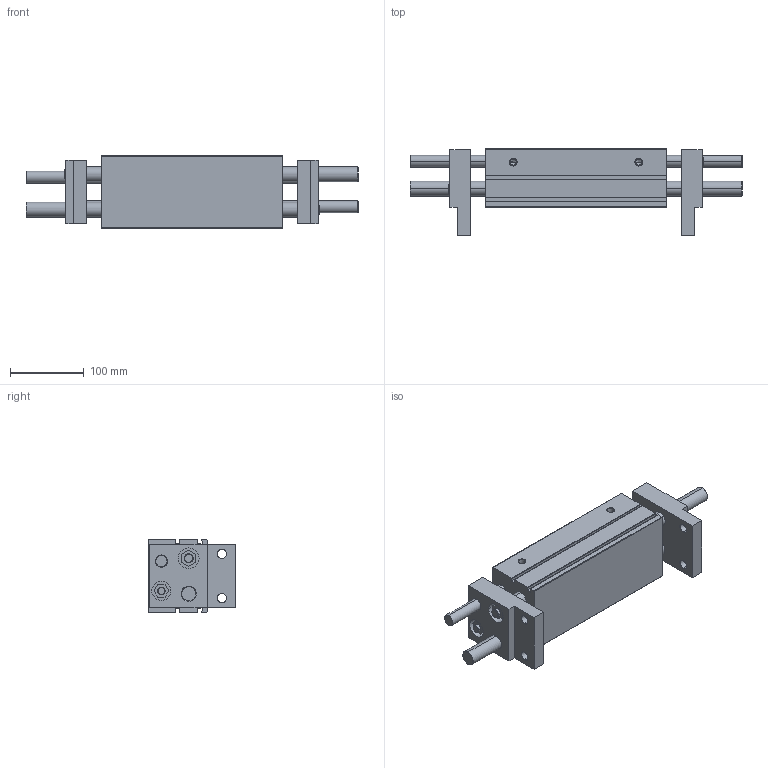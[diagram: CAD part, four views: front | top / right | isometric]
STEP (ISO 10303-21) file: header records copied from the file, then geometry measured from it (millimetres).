
FILE_DESCRIPTION (( 'STEP AP203' ), '1' );
FILE_NAME ('CHL2-40D2.STEP', '2017-06-06T19:59:36', ( '' ), ( '' ), 'SwSTEP 2.0', 'SolidWorks 2016', '' );
FILE_SCHEMA (( 'CONFIG_CONTROL_DESIGN' ));
Length unit declared in the file: millimetre
Products named in the file (3): CHL2-40D2 DEDOS; CHL2-40D2; CHL2-40D2 CORPO
Assembly tree (3 placements, depth 2):
  CHL2-40D2
    CHL2-40D2 CORPO
    CHL2-40D2 DEDOS  x2
Bounding box: 450 x 117 x 98 mm (x, y, z)
Volume: 2376411.1 mm3; surface area: 337011.2 mm2
Topology: 3 solids, 3 shells, 335 faces, 785 edges, 491 vertices
Faces by surface type: plane 125, cylinder 119, cone 91
Entity records: 7471 total; most frequent: DIRECTION 1334, CARTESIAN_POINT 1199, ORIENTED_EDGE 1150, EDGE_CURVE 575, AXIS2_PLACEMENT_3D 502, VERTEX_POINT 367, LINE 330, VECTOR 330
